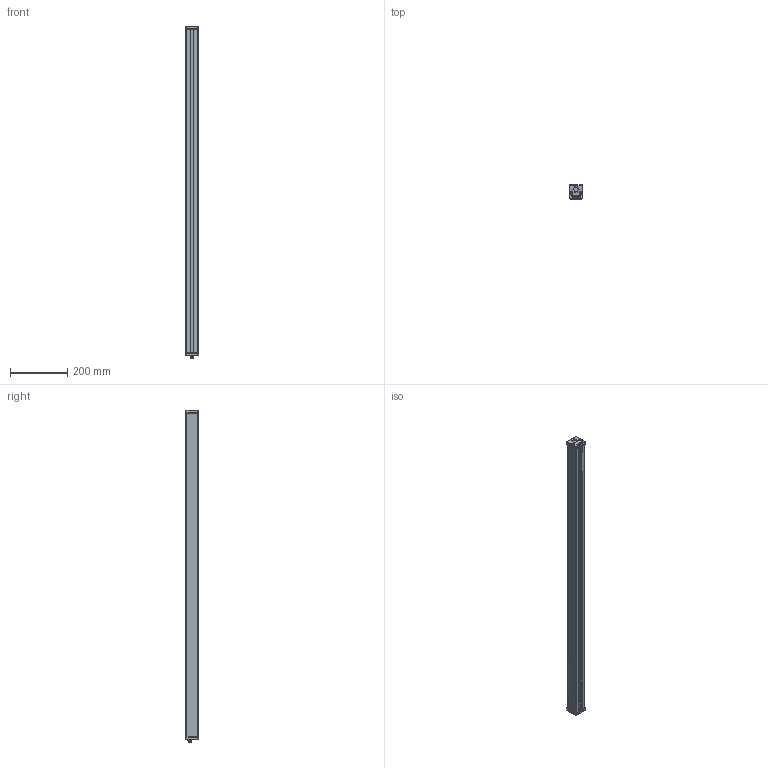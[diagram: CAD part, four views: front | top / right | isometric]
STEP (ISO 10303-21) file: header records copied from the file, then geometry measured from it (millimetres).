
FILE_DESCRIPTION (( 'STEP AP214' ), '1' );
FILE_NAME ('BLBAR 45.STEP', '2012-02-13T13:40:00', ( ' ' ), ( '' ), 'SwSTEP 2.0', 'SolidWorks 2009', '' );
FILE_SCHEMA (( 'AUTOMOTIVE_DESIGN' ));
Length unit declared in the file: millimetre
Products named in the file (1): BLBAR 45
Bounding box: 47.2 x 47 x 1162.1 mm (x, y, z)
Volume: 584464.6 mm3; surface area: 580519.7 mm2
Topology: 1 solids, 3 shells, 599 faces, 1564 edges, 1007 vertices
Faces by surface type: plane 311, cylinder 156, bspline 66, torus 38, cone 20, sphere 8
Entity records: 34060 total; most frequent: CARTESIAN_POINT 13050, ORIENTED_EDGE 3096, DIRECTION 2810, EDGE_CURVE 1548, VERTEX_POINT 999, VECTOR 950, LINE 950, AXIS2_PLACEMENT_3D 930
